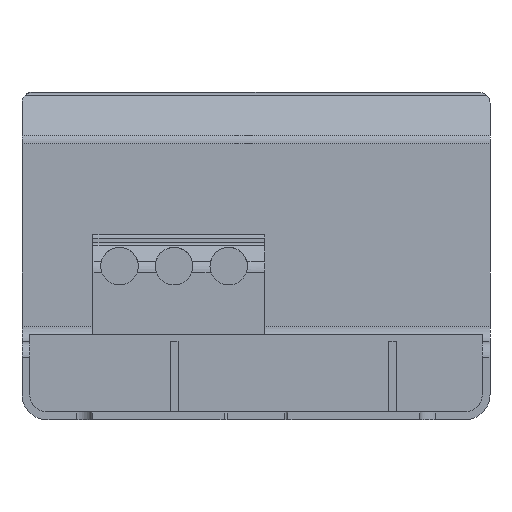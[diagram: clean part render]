
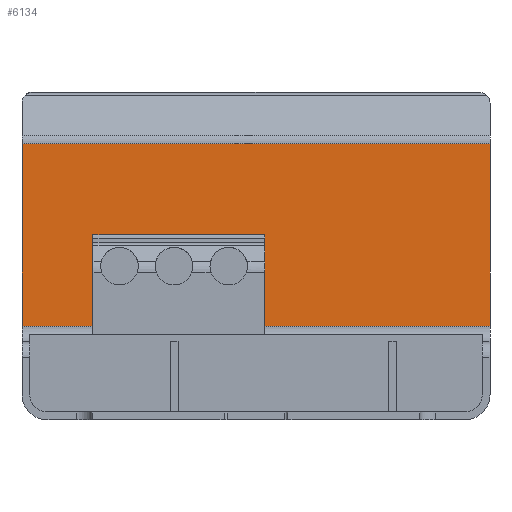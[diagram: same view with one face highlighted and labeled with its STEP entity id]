
A CAD part, front view. The second image highlights one B-rep face of the part: STEP entity #6134.
In plain terms, the highlighted planar face has unit normal (0, -1, 0).
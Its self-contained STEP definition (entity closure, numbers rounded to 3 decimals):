
#2419=DIRECTION('',(1.,0.,0.));
#2420=VECTOR('',#2419,30.);
#2421=CARTESIAN_POINT('',(-15.,-150.7,6.));
#2422=LINE('',#2421,#2420);
#3017=DIRECTION('',(0.,0.,1.));
#3018=VECTOR('',#3017,11.71);
#3019=CARTESIAN_POINT('',(-15.,-150.7,6.));
#3020=LINE('',#3019,#3018);
#3024=DIRECTION('',(1.,0.,0.));
#3025=VECTOR('',#3024,30.);
#3026=CARTESIAN_POINT('',(-15.,-150.7,17.71));
#3027=LINE('',#3026,#3025);
#3031=DIRECTION('',(0.,0.,-1.));
#3032=VECTOR('',#3031,11.71);
#3033=CARTESIAN_POINT('',(15.,-150.7,17.71));
#3034=LINE('',#3033,#3032);
#3910=CARTESIAN_POINT('',(-15.,-150.7,17.71));
#3911=CARTESIAN_POINT('',(15.,-150.7,17.71));
#3912=VERTEX_POINT('',#3910);
#3913=VERTEX_POINT('',#3911);
#4010=CARTESIAN_POINT('',(15.,-150.7,6.));
#4011=VERTEX_POINT('',#4010);
#4012=CARTESIAN_POINT('',(-15.,-150.7,6.));
#4013=VERTEX_POINT('',#4012);
#6122=CARTESIAN_POINT('',(-15.,-150.7,5.45));
#6123=DIRECTION('',(0.,-1.,0.));
#6124=DIRECTION('',(0.,0.,1.));
#6125=AXIS2_PLACEMENT_3D('',#6122,#6123,#6124);
#6126=PLANE('',#6125);
#6127=ORIENTED_EDGE('',*,*,#5692,.F.);
#6128=ORIENTED_EDGE('',*,*,#4071,.T.);
#6130=ORIENTED_EDGE('',*,*,#6129,.T.);
#6131=ORIENTED_EDGE('',*,*,#4251,.T.);
#6132=EDGE_LOOP('',(#6127,#6128,#6130,#6131));
#6133=FACE_OUTER_BOUND('',#6132,.F.);
#4071=EDGE_CURVE('',#4013,#3912,#3020,.T.);
#4251=EDGE_CURVE('',#3913,#4011,#3034,.T.);
#5692=EDGE_CURVE('',#4013,#4011,#2422,.T.);
#6129=EDGE_CURVE('',#3912,#3913,#3027,.T.);
#6134=ADVANCED_FACE('',(#6133),#6126,.T.);
